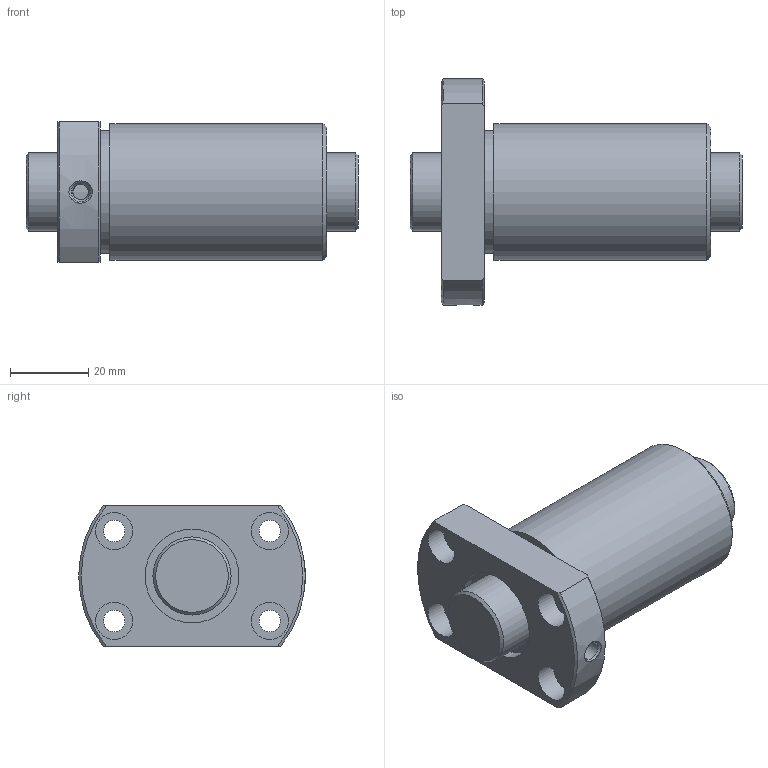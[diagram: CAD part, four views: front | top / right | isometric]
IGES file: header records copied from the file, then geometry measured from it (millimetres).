
Start section: Data from Parasolid IGES Translator 26.0.171, Copyright(c) 2006 Siemens PLM Software. All Rights Reserved.
Global section: file name: DIK2008-4RRG0+85LC0_000.igs; native system: By Siemens PLM Incorporated; preprocessor: XPlus GENERIC/IGES 26.0.171; author: Noname; organization: Noname; date: 20250113.094747; units: millimetre
Bounding box: 85 x 58 x 36 mm (x, y, z)
Surface area: 23104.8 mm2 (no closed solid volume)
Topology: 0 solids, 0 shells, 41 faces, 166 edges, 133 vertices
Faces by surface type: revolution 27, extrusion 14
